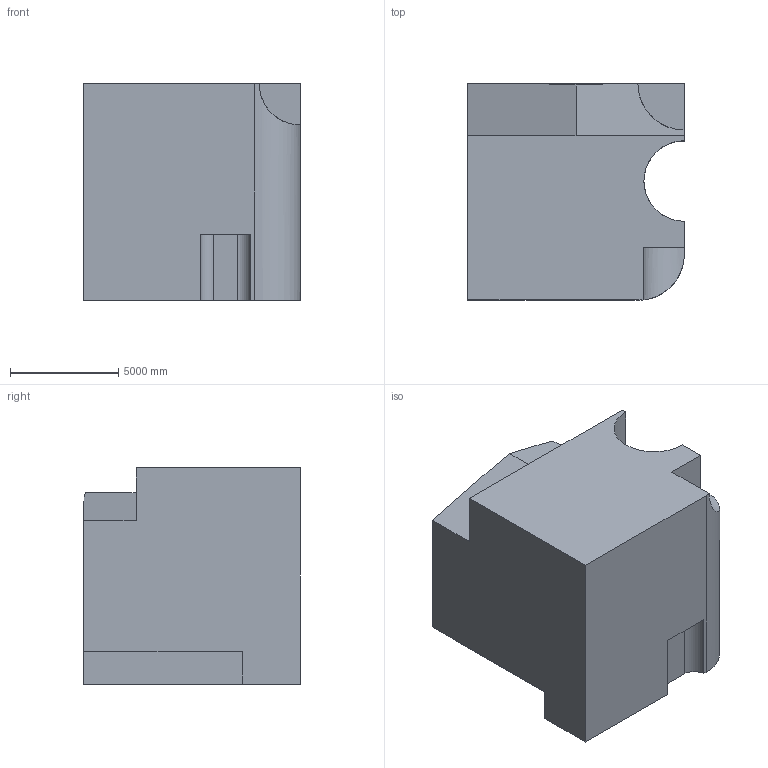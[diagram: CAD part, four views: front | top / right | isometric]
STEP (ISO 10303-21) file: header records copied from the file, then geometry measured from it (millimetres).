
FILE_DESCRIPTION (( 'STEP AP203' ), '1' );
FILE_NAME ('366.STEP', '2022-09-07T13:14:08', ( 'user' ), ( '' ), 'SwSTEP 2.0', 'SolidWorks 2021', '' );
FILE_SCHEMA (( 'CONFIG_CONTROL_DESIGN' ));
Length unit declared in the file: centimetre
Products named in the file (1): 366
Bounding box: 10000 x 10000 x 10000 mm (x, y, z)
Volume: 849539549587.9 mm3; surface area: 591924679.9 mm2
Topology: 1 solids, 1 shells, 29 faces, 81 edges, 54 vertices
Faces by surface type: plane 21, cylinder 8
Entity records: 1105 total; most frequent: CARTESIAN_POINT 284, ORIENTED_EDGE 162, DIRECTION 148, EDGE_CURVE 81, LINE 60, VECTOR 60, VERTEX_POINT 54, AXIS2_PLACEMENT_3D 44
